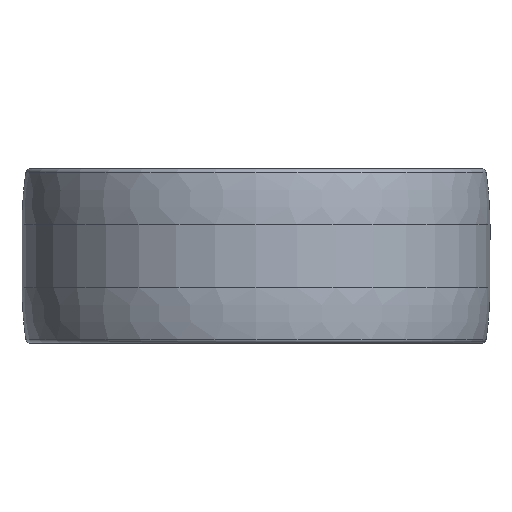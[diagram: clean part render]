
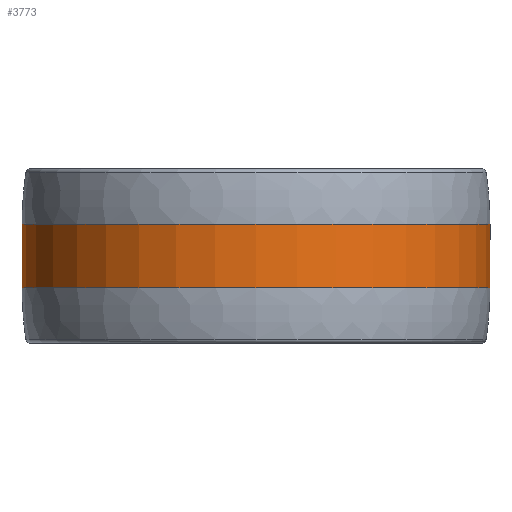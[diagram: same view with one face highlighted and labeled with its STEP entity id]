
A CAD part, left-side view. The second image highlights one B-rep face of the part: STEP entity #3773.
In plain terms, the highlighted cylindrical face has radius 25.25 mm (diameter 50.5 mm), a partial arc.
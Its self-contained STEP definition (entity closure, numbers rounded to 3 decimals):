
#291 = LINE ( 'NONE', #3038, #6868 ) ;
#676 = VERTEX_POINT ( 'NONE', #4773 ) ;
#704 = CARTESIAN_POINT ( 'NONE',  ( 0., 25.25, 9.75 ) ) ;
#832 = ORIENTED_EDGE ( 'NONE', *, *, #6656, .F. ) ;
#952 = DIRECTION ( 'NONE',  ( 0., 0., -1. ) ) ;
#990 = AXIS2_PLACEMENT_3D ( 'NONE', #3469, #8021, #2770 ) ;
#1162 = DIRECTION ( 'NONE',  ( 0., 0., -1. ) ) ;
#1249 = CARTESIAN_POINT ( 'NONE',  ( 0., 0., 9.75 ) ) ;
#1959 = ORIENTED_EDGE ( 'NONE', *, *, #6779, .F. ) ;
#1982 = CARTESIAN_POINT ( 'NONE',  ( 0., -25.25, 2.95 ) ) ;
#2670 = VERTEX_POINT ( 'NONE', #2689 ) ;
#2689 = CARTESIAN_POINT ( 'NONE',  ( 0., -25.25, 9.75 ) ) ;
#2770 = DIRECTION ( 'NONE',  ( 0., 1., 0. ) ) ;
#3038 = CARTESIAN_POINT ( 'NONE',  ( 0., -25.25, 0. ) ) ;
#3469 = CARTESIAN_POINT ( 'NONE',  ( 0., 0., 0. ) ) ;
#3475 = ORIENTED_EDGE ( 'NONE', *, *, #4491, .T. ) ;
#3699 = EDGE_CURVE ( 'NONE', #2670, #7991, #8510, .T. ) ;
#3773 = ADVANCED_FACE ( 'NONE', ( #4036 ), #8056, .T. ) ;
#4004 = CARTESIAN_POINT ( 'NONE',  ( 0., 0., 2.95 ) ) ;
#4036 = FACE_OUTER_BOUND ( 'NONE', #7563, .T. ) ;
#4192 = VERTEX_POINT ( 'NONE', #1982 ) ;
#4491 = EDGE_CURVE ( 'NONE', #7991, #676, #4628, .T. ) ;
#4628 = LINE ( 'NONE', #6628, #5794 ) ;
#4640 = AXIS2_PLACEMENT_3D ( 'NONE', #4004, #7988, #4785 ) ;
#4773 = CARTESIAN_POINT ( 'NONE',  ( 0., 25.25, 2.95 ) ) ;
#4785 = DIRECTION ( 'NONE',  ( 0., 1., 0. ) ) ;
#5242 = DIRECTION ( 'NONE',  ( 0., 1., 0. ) ) ;
#5486 = ORIENTED_EDGE ( 'NONE', *, *, #3699, .T. ) ;
#5794 = VECTOR ( 'NONE', #7902, 1000. ) ;
#6549 = AXIS2_PLACEMENT_3D ( 'NONE', #1249, #1162, #5242 ) ;
#6583 = CIRCLE ( 'NONE', #4640, 25.25 ) ;
#6628 = CARTESIAN_POINT ( 'NONE',  ( 0., 25.25, 0. ) ) ;
#6656 = EDGE_CURVE ( 'NONE', #4192, #676, #6583, .T. ) ;
#6779 = EDGE_CURVE ( 'NONE', #2670, #4192, #291, .T. ) ;
#6868 = VECTOR ( 'NONE', #952, 1000. ) ;
#7563 = EDGE_LOOP ( 'NONE', ( #1959, #5486, #3475, #832 ) ) ;
#7902 = DIRECTION ( 'NONE',  ( 0., 0., -1. ) ) ;
#7988 = DIRECTION ( 'NONE',  ( 0., 0., -1. ) ) ;
#7991 = VERTEX_POINT ( 'NONE', #704 ) ;
#8021 = DIRECTION ( 'NONE',  ( 0., 0., -1. ) ) ;
#8056 = CYLINDRICAL_SURFACE ( 'NONE', #990, 25.25 ) ;
#8510 = CIRCLE ( 'NONE', #6549, 25.25 ) ;
